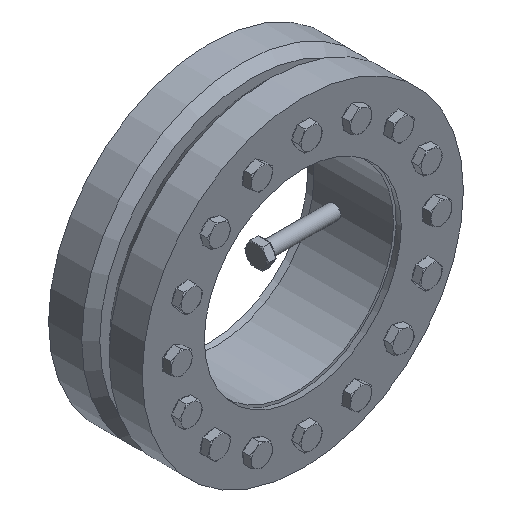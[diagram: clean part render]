
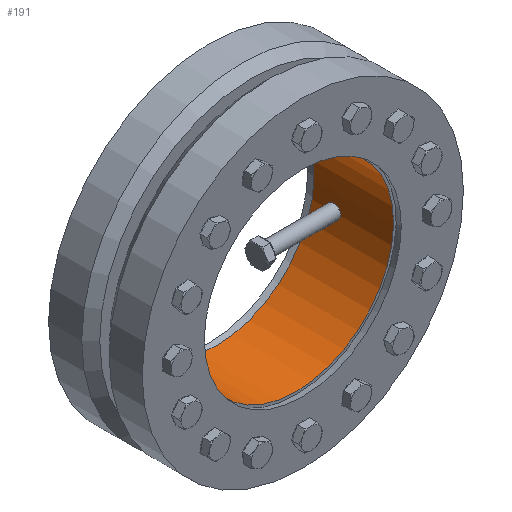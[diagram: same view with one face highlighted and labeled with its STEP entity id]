
A CAD part, isometric view. The second image highlights one B-rep face of the part: STEP entity #191.
In plain terms, the highlighted cylindrical face has radius 140 mm (diameter 280 mm), a partial arc.
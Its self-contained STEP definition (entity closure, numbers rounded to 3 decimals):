
#191 = ADVANCED_FACE( '', ( #487 ), #488, .F. );
#487 = FACE_OUTER_BOUND( '', #804, .T. );
#488 = CYLINDRICAL_SURFACE( '', #805, 140. );
#804 = EDGE_LOOP( '', ( #1298, #1299, #1300, #1301 ) );
#805 = AXIS2_PLACEMENT_3D( '', #1302, #1303, #1304 );
#1298 = ORIENTED_EDGE( '', *, *, #1561, .T. );
#1299 = ORIENTED_EDGE( '', *, *, #1487, .T. );
#1300 = ORIENTED_EDGE( '', *, *, #1546, .F. );
#1301 = ORIENTED_EDGE( '', *, *, #1434, .F. );
#1302 = CARTESIAN_POINT( '', ( 0., -60., 0. ) );
#1303 = DIRECTION( '', ( 0., 1., 0. ) );
#1304 = DIRECTION( '', ( 0., 0., -1. ) );
#1434 = EDGE_CURVE( '', #1672, #1673, #1674, .F. );
#1487 = EDGE_CURVE( '', #1748, #1758, #1760, .F. );
#1546 = EDGE_CURVE( '', #1673, #1758, #1855, .T. );
#1561 = EDGE_CURVE( '', #1672, #1748, #1878, .T. );
#1672 = VERTEX_POINT( '', #2105 );
#1673 = VERTEX_POINT( '', #2106 );
#1674 = LINE( '', #2107, #2108 );
#1748 = VERTEX_POINT( '', #2203 );
#1758 = VERTEX_POINT( '', #2221 );
#1760 = LINE( '', #2224, #2225 );
#1855 = CIRCLE( '', #2322, 140. );
#1878 = CIRCLE( '', #2345, 140. );
#2105 = CARTESIAN_POINT( '', ( -6.7, -57., 139.84 ) );
#2106 = CARTESIAN_POINT( '', ( -6.7, 57., 139.84 ) );
#2107 = CARTESIAN_POINT( '', ( -6.7, -60., 139.84 ) );
#2108 = VECTOR( '', #2454, 1000. );
#2203 = CARTESIAN_POINT( '', ( 6.7, -57., 139.84 ) );
#2221 = CARTESIAN_POINT( '', ( 6.7, 57., 139.84 ) );
#2224 = CARTESIAN_POINT( '', ( 6.7, -60., 139.84 ) );
#2225 = VECTOR( '', #2527, 1000. );
#2322 = AXIS2_PLACEMENT_3D( '', #2644, #2645, #2646 );
#2345 = AXIS2_PLACEMENT_3D( '', #2674, #2675, #2676 );
#2454 = DIRECTION( '', ( 0., -1., 0. ) );
#2527 = DIRECTION( '', ( 0., -1., 0. ) );
#2644 = CARTESIAN_POINT( '', ( 0., 57., 0. ) );
#2645 = DIRECTION( '', ( 0., -1., 0. ) );
#2646 = DIRECTION( '', ( 0., 0., -1. ) );
#2674 = CARTESIAN_POINT( '', ( 0., -57., 0. ) );
#2675 = DIRECTION( '', ( 0., -1., 0. ) );
#2676 = DIRECTION( '', ( 0., 0., -1. ) );
